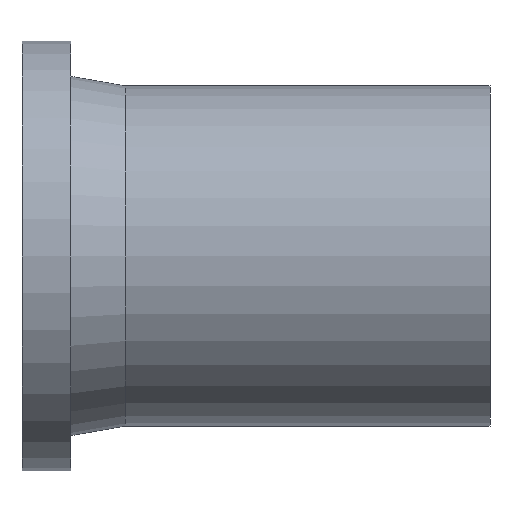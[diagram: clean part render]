
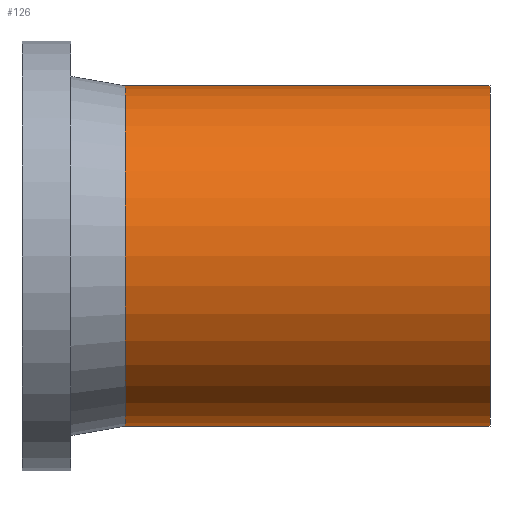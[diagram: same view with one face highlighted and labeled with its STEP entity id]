
A CAD part, front view. The second image highlights one B-rep face of the part: STEP entity #126.
In plain terms, the highlighted cylindrical face has radius 62.5 mm (diameter 125 mm), a full revolution.
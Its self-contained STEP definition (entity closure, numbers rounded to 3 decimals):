
#77=CARTESIAN_POINT('',(38.,62.5,0.));
#78=VERTEX_POINT('',#77);
#79=CARTESIAN_POINT('',(38.,0.,0.));
#80=DIRECTION('',(1.,0.,0.));
#81=DIRECTION('',(0.,1.,0.));
#82=AXIS2_PLACEMENT_3D('',#79,#80,#81);
#83=CIRCLE('',#82,62.5);
#84=EDGE_CURVE('',#78,#78,#83,.T.);
#102=CARTESIAN_POINT('',(172.,62.5,0.));
#103=VERTEX_POINT('',#102);
#104=CARTESIAN_POINT('',(172.,0.,0.));
#105=DIRECTION('',(1.,0.,0.));
#106=DIRECTION('',(0.,1.,0.));
#107=AXIS2_PLACEMENT_3D('',#104,#105,#106);
#108=CIRCLE('',#107,62.5);
#109=EDGE_CURVE('',#103,#103,#108,.T.);
#110=ORIENTED_EDGE('',*,*,#109,.F.);
#111=CARTESIAN_POINT('',(105.,62.5,0.));
#112=DIRECTION('',(1.,0.,0.));
#113=VECTOR('',#112,62.5);
#114=LINE('',#111,#113);
#115=EDGE_CURVE('',#78,#103,#114,.T.);
#116=ORIENTED_EDGE('',*,*,#115,.F.);
#117=ORIENTED_EDGE('',*,*,#84,.T.);
#118=ORIENTED_EDGE('',*,*,#115,.T.);
#119=EDGE_LOOP('',(#110,#116,#117,#118));
#120=FACE_OUTER_BOUND('',#119,.T.);
#121=CARTESIAN_POINT('',(105.,0.,0.));
#122=DIRECTION('',(1.,0.,0.));
#123=DIRECTION('',(0.,1.,0.));
#124=AXIS2_PLACEMENT_3D('',#121,#122,#123);
#125=CYLINDRICAL_SURFACE('',#124,62.5);
#126=ADVANCED_FACE('',(#120),#125,.T.);
